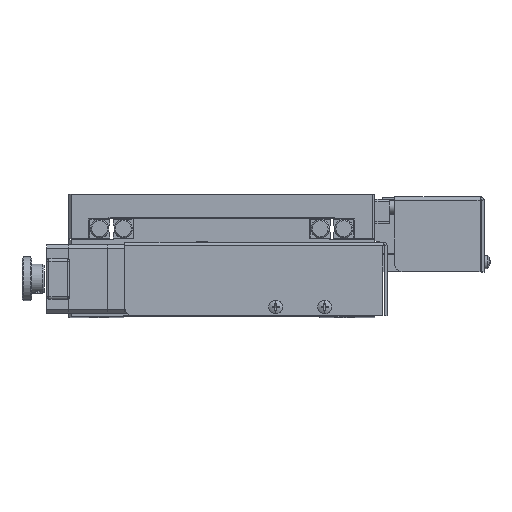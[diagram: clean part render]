
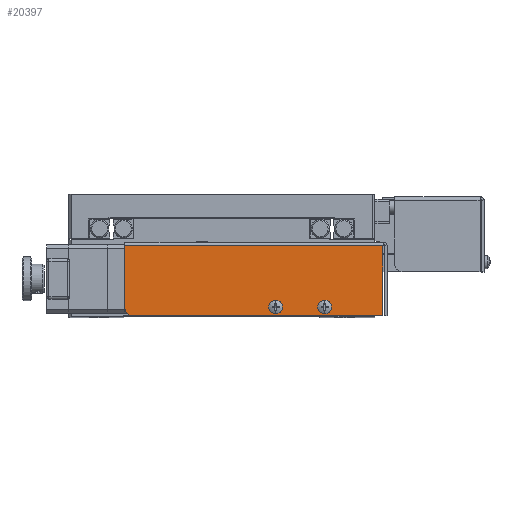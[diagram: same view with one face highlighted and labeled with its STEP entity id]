
A CAD part, top view. The second image highlights one B-rep face of the part: STEP entity #20397.
In plain terms, the highlighted planar face has unit normal (0, 0, 1).
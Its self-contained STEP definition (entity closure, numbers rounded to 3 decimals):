
#212 = CARTESIAN_POINT ( 'NONE',  ( 42., 4., 105.1 ) ) ;
#332 = VERTEX_POINT ( 'NONE', #33710 ) ;
#1806 = CARTESIAN_POINT ( 'NONE',  ( -39.5, 29., 105.1 ) ) ;
#2070 = FACE_BOUND ( 'NONE', #18634, .T. ) ;
#2232 = DIRECTION ( 'NONE',  ( 0., 1., 0. ) ) ;
#2288 = EDGE_CURVE ( 'NONE', #24935, #5259, #60005, .T. ) ;
#2738 = DIRECTION ( 'NONE',  ( 0., 0., 1. ) ) ;
#5259 = VERTEX_POINT ( 'NONE', #61367 ) ;
#5384 = ORIENTED_EDGE ( 'NONE', *, *, #15524, .F. ) ;
#5491 = DIRECTION ( 'NONE',  ( -1., 0., 0. ) ) ;
#6531 = CARTESIAN_POINT ( 'NONE',  ( -36.5, 3.5, 105.1 ) ) ;
#7417 = VERTEX_POINT ( 'NONE', #56243 ) ;
#7944 = DIRECTION ( 'NONE',  ( 1., 0., 0. ) ) ;
#9876 = DIRECTION ( 'NONE',  ( 1., 0., 0. ) ) ;
#9909 = ORIENTED_EDGE ( 'NONE', *, *, #50284, .F. ) ;
#11270 = DIRECTION ( 'NONE',  ( 1., 0., 0. ) ) ;
#12398 = DIRECTION ( 'NONE',  ( 0., 0., -1. ) ) ;
#12787 = EDGE_CURVE ( 'NONE', #5259, #24935, #67086, .T. ) ;
#12853 = DIRECTION ( 'NONE',  ( 0., 1., 0. ) ) ;
#13266 = AXIS2_PLACEMENT_3D ( 'NONE', #59187, #12398, #12853 ) ;
#14081 = AXIS2_PLACEMENT_3D ( 'NONE', #57386, #52450, #11270 ) ;
#14348 = ORIENTED_EDGE ( 'NONE', *, *, #47085, .F. ) ;
#15007 = LINE ( 'NONE', #32166, #54689 ) ;
#15348 = AXIS2_PLACEMENT_3D ( 'NONE', #212, #42267, #16454 ) ;
#15524 = EDGE_CURVE ( 'NONE', #19961, #62863, #64326, .T. ) ;
#16454 = DIRECTION ( 'NONE',  ( 1., 0., 0. ) ) ;
#18315 = CARTESIAN_POINT ( 'NONE',  ( -36.5, 0.5, 105.1 ) ) ;
#18634 = EDGE_LOOP ( 'NONE', ( #54458, #49599 ) ) ;
#19395 = LINE ( 'NONE', #52642, #43694 ) ;
#19961 = VERTEX_POINT ( 'NONE', #43565 ) ;
#20397 = ADVANCED_FACE ( 'NONE', ( #2070, #26285, #65917 ), #37778, .F. ) ;
#21027 = ORIENTED_EDGE ( 'NONE', *, *, #40040, .T. ) ;
#22665 = EDGE_LOOP ( 'NONE', ( #5384, #21027, #36964, #14348, #9909 ) ) ;
#23393 = CARTESIAN_POINT ( 'NONE',  ( 22., 4., 105.1 ) ) ;
#24935 = VERTEX_POINT ( 'NONE', #65977 ) ;
#25525 = VERTEX_POINT ( 'NONE', #18315 ) ;
#26285 = FACE_BOUND ( 'NONE', #33758, .T. ) ;
#27504 = DIRECTION ( 'NONE',  ( 0., 0., 1. ) ) ;
#28162 = DIRECTION ( 'NONE',  ( 0., 1., 0. ) ) ;
#28194 = VERTEX_POINT ( 'NONE', #63628 ) ;
#28471 = CARTESIAN_POINT ( 'NONE',  ( 22., 4., 105.1 ) ) ;
#32166 = CARTESIAN_POINT ( 'NONE',  ( 67.5, 0.5, 105.1 ) ) ;
#33710 = CARTESIAN_POINT ( 'NONE',  ( 23.7, 4., 105.1 ) ) ;
#33758 = EDGE_LOOP ( 'NONE', ( #44976, #45007 ) ) ;
#34834 = AXIS2_PLACEMENT_3D ( 'NONE', #28471, #2738, #7944 ) ;
#36846 = EDGE_CURVE ( 'NONE', #59596, #332, #37720, .T. ) ;
#36964 = ORIENTED_EDGE ( 'NONE', *, *, #62612, .F. ) ;
#37720 = CIRCLE ( 'NONE', #34834, 1.7 ) ;
#37778 = PLANE ( 'NONE',  #13266 ) ;
#38137 = DIRECTION ( 'NONE',  ( 1., 0., 0. ) ) ;
#39876 = CARTESIAN_POINT ( 'NONE',  ( 20.3, 4., 105.1 ) ) ;
#40040 = EDGE_CURVE ( 'NONE', #19961, #25525, #58551, .T. ) ;
#40868 = VECTOR ( 'NONE', #28162, 1000. ) ;
#42216 = DIRECTION ( 'NONE',  ( 0., -1., 0. ) ) ;
#42267 = DIRECTION ( 'NONE',  ( 0., 0., 1. ) ) ;
#43565 = CARTESIAN_POINT ( 'NONE',  ( -39.5, 3.5, 105.1 ) ) ;
#43694 = VECTOR ( 'NONE', #42216, 1000. ) ;
#44976 = ORIENTED_EDGE ( 'NONE', *, *, #12787, .F. ) ;
#45007 = ORIENTED_EDGE ( 'NONE', *, *, #2288, .F. ) ;
#47085 = EDGE_CURVE ( 'NONE', #28194, #7417, #19395, .T. ) ;
#47426 = VECTOR ( 'NONE', #9876, 1000. ) ;
#48791 = DIRECTION ( 'NONE',  ( 0., 0., 1. ) ) ;
#49599 = ORIENTED_EDGE ( 'NONE', *, *, #36846, .F. ) ;
#49703 = AXIS2_PLACEMENT_3D ( 'NONE', #6531, #27504, #2232 ) ;
#50284 = EDGE_CURVE ( 'NONE', #62863, #28194, #61090, .T. ) ;
#51266 = CARTESIAN_POINT ( 'NONE',  ( 67.5, 29., 105.1 ) ) ;
#52109 = EDGE_CURVE ( 'NONE', #332, #59596, #52618, .T. ) ;
#52450 = DIRECTION ( 'NONE',  ( 0., 0., 1. ) ) ;
#52618 = CIRCLE ( 'NONE', #60142, 1.7 ) ;
#52642 = CARTESIAN_POINT ( 'NONE',  ( 65.793, 29.5, 105.1 ) ) ;
#54458 = ORIENTED_EDGE ( 'NONE', *, *, #52109, .F. ) ;
#54689 = VECTOR ( 'NONE', #5491, 1000. ) ;
#56243 = CARTESIAN_POINT ( 'NONE',  ( 65.793, 0.5, 105.1 ) ) ;
#57386 = CARTESIAN_POINT ( 'NONE',  ( 42., 4., 105.1 ) ) ;
#58551 = CIRCLE ( 'NONE', #49703, 3. ) ;
#59136 = CARTESIAN_POINT ( 'NONE',  ( -39.5, 0.5, 105.1 ) ) ;
#59187 = CARTESIAN_POINT ( 'NONE',  ( -39.5, 30.5, 105.1 ) ) ;
#59596 = VERTEX_POINT ( 'NONE', #39876 ) ;
#60005 = CIRCLE ( 'NONE', #14081, 1.7 ) ;
#60142 = AXIS2_PLACEMENT_3D ( 'NONE', #23393, #48791, #38137 ) ;
#61090 = LINE ( 'NONE', #51266, #47426 ) ;
#61367 = CARTESIAN_POINT ( 'NONE',  ( 43.7, 4., 105.1 ) ) ;
#62612 = EDGE_CURVE ( 'NONE', #7417, #25525, #15007, .T. ) ;
#62863 = VERTEX_POINT ( 'NONE', #1806 ) ;
#63628 = CARTESIAN_POINT ( 'NONE',  ( 65.793, 29., 105.1 ) ) ;
#64326 = LINE ( 'NONE', #59136, #40868 ) ;
#65917 = FACE_OUTER_BOUND ( 'NONE', #22665, .T. ) ;
#65977 = CARTESIAN_POINT ( 'NONE',  ( 40.3, 4., 105.1 ) ) ;
#67086 = CIRCLE ( 'NONE', #15348, 1.7 ) ;
